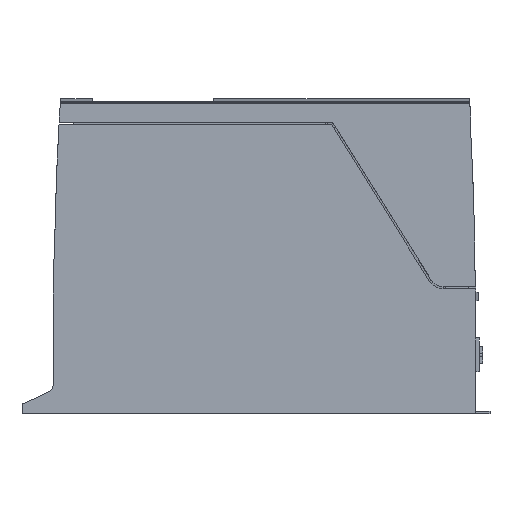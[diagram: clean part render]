
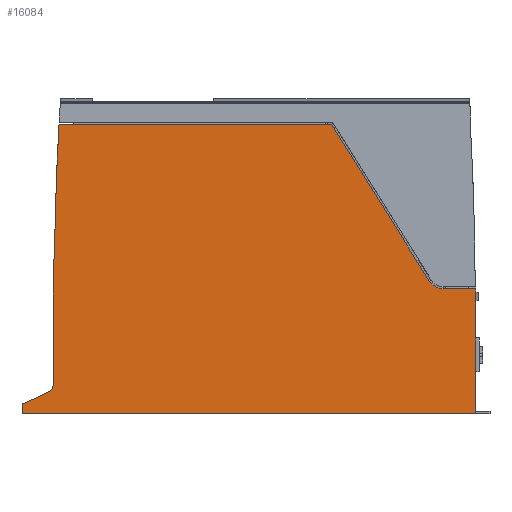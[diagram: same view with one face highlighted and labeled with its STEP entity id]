
A CAD part, left-side view. The second image highlights one B-rep face of the part: STEP entity #16084.
In plain terms, the highlighted planar face has unit normal (-1, 0, 0).
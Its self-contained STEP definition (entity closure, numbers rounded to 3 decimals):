
#14793=DIRECTION('',(0.,0.,1.));
#14794=VECTOR('',#14793,6.);
#14795=CARTESIAN_POINT('',(-51.,-287.5,-97.));
#14796=LINE('',#14795,#14794);
#14800=DIRECTION('',(0.,-1.,0.));
#14801=VECTOR('',#14800,322.);
#14802=CARTESIAN_POINT('',(-51.,34.5,-177.));
#14803=LINE('',#14802,#14801);
#14807=DIRECTION('',(0.,0.707,-0.707));
#14808=VECTOR('',#14807,1.414);
#14809=CARTESIAN_POINT('',(-51.,11.5,-67.));
#14810=LINE('',#14809,#14808);
#14814=CARTESIAN_POINT('',(-51.,-2188.322,-95.));
#14815=DIRECTION('',(1.,0.,0.));
#14816=DIRECTION('',(0.,1.,0.013));
#14817=AXIS2_PLACEMENT_3D('',#14814,#14815,#14816);
#14822=DIRECTION('',(0.,-1.,0.));
#14823=VECTOR('',#14822,193.343);
#14824=CARTESIAN_POINT('',(-51.,8.237,28.));
#14825=LINE('',#14824,#14823);
#14829=DIRECTION('',(0.,-0.53,-0.848));
#14830=VECTOR('',#14829,131.);
#14831=CARTESIAN_POINT('',(-51.,-185.106,28.));
#14832=LINE('',#14831,#14830);
#14836=CARTESIAN_POINT('',(-51.,-264.278,-77.));
#14837=DIRECTION('',(-1.,0.,0.));
#14838=DIRECTION('',(0.,0.848,-0.53));
#14839=AXIS2_PLACEMENT_3D('',#14836,#14837,#14838);
#14844=DIRECTION('',(0.,1.,0.));
#14845=VECTOR('',#14844,23.222);
#14846=CARTESIAN_POINT('',(-51.,-287.5,-88.5));
#14847=LINE('',#14846,#14845);
#15117=DIRECTION('',(0.,0.,1.));
#15118=VECTOR('',#15117,89.056);
#15119=CARTESIAN_POINT('',(-51.,12.5,-157.056));
#15120=LINE('',#15119,#15118);
#15131=CARTESIAN_POINT('',(-51.,17.5,-157.056));
#15132=DIRECTION('',(1.,0.,0.));
#15133=DIRECTION('',(0.,-1.,0.));
#15134=AXIS2_PLACEMENT_3D('',#15131,#15132,#15133);
#15139=DIRECTION('',(0.,0.906,-0.423));
#15140=VECTOR('',#15139,21.089);
#15141=CARTESIAN_POINT('',(-51.,15.387,-161.587));
#15142=LINE('',#15141,#15140);
#15153=DIRECTION('',(0.,0.,-1.));
#15154=VECTOR('',#15153,6.5);
#15155=CARTESIAN_POINT('',(-51.,34.5,-170.5));
#15156=LINE('',#15155,#15154);
#15386=DIRECTION('',(0.,0.,1.));
#15387=VECTOR('',#15386,80.);
#15388=CARTESIAN_POINT('',(-51.,-287.5,-177.));
#15389=LINE('',#15388,#15387);
#15421=DIRECTION('',(0.,0.,1.));
#15422=VECTOR('',#15421,2.5);
#15423=CARTESIAN_POINT('',(-51.,-287.5,-91.));
#15424=LINE('',#15423,#15422);
#15851=CARTESIAN_POINT('',(-51.,11.5,-67.));
#15852=CARTESIAN_POINT('',(-51.,12.5,-68.));
#15853=VERTEX_POINT('',#15851);
#15854=VERTEX_POINT('',#15852);
#15855=CARTESIAN_POINT('',(-51.,8.237,28.));
#15856=CARTESIAN_POINT('',(-51.,-185.106,28.));
#15857=VERTEX_POINT('',#15855);
#15858=VERTEX_POINT('',#15856);
#15859=CARTESIAN_POINT('',(-51.,-254.525,-83.094));
#15860=VERTEX_POINT('',#15859);
#15861=CARTESIAN_POINT('',(-51.,-264.278,-88.5));
#15862=VERTEX_POINT('',#15861);
#15863=CARTESIAN_POINT('',(-51.,-287.5,-88.5));
#15864=VERTEX_POINT('',#15863);
#15873=CARTESIAN_POINT('',(-51.,34.5,-177.));
#15874=CARTESIAN_POINT('',(-51.,-287.5,-177.));
#15875=VERTEX_POINT('',#15873);
#15876=VERTEX_POINT('',#15874);
#15879=CARTESIAN_POINT('',(-51.,34.5,-170.5));
#15880=VERTEX_POINT('',#15879);
#15881=CARTESIAN_POINT('',(-51.,12.5,-157.056));
#15882=VERTEX_POINT('',#15881);
#15883=CARTESIAN_POINT('',(-51.,15.387,-161.587));
#15884=VERTEX_POINT('',#15883);
#15933=CARTESIAN_POINT('',(-51.,-287.5,-97.));
#15934=CARTESIAN_POINT('',(-51.,-287.5,-91.));
#15935=VERTEX_POINT('',#15933);
#15936=VERTEX_POINT('',#15934);
#16049=CARTESIAN_POINT('',(-51.,12.5,-175.5));
#16050=DIRECTION('',(-1.,0.,0.));
#16051=DIRECTION('',(0.,0.,1.));
#16052=AXIS2_PLACEMENT_3D('',#16049,#16050,#16051);
#16053=PLANE('',#16052);
#16055=ORIENTED_EDGE('',*,*,#16054,.F.);
#16057=ORIENTED_EDGE('',*,*,#16056,.F.);
#16059=ORIENTED_EDGE('',*,*,#16058,.F.);
#16061=ORIENTED_EDGE('',*,*,#16060,.F.);
#16063=ORIENTED_EDGE('',*,*,#16062,.F.);
#16065=ORIENTED_EDGE('',*,*,#16064,.F.);
#16067=ORIENTED_EDGE('',*,*,#16066,.T.);
#16069=ORIENTED_EDGE('',*,*,#16068,.F.);
#16071=ORIENTED_EDGE('',*,*,#16070,.T.);
#16073=ORIENTED_EDGE('',*,*,#16072,.T.);
#16075=ORIENTED_EDGE('',*,*,#16074,.T.);
#16077=ORIENTED_EDGE('',*,*,#16076,.T.);
#16079=ORIENTED_EDGE('',*,*,#16078,.F.);
#16081=ORIENTED_EDGE('',*,*,#16080,.F.);
#16082=EDGE_LOOP('',(#16055,#16057,#16059,#16061,#16063,#16065,#16067,#16069,
#16071,#16073,#16075,#16077,#16079,#16081));
#16083=FACE_OUTER_BOUND('',#16082,.F.);
#16084=ADVANCED_FACE('',(#16083),#16053,.T.);
#14818=CIRCLE('',#14817,2200.);
#14840=CIRCLE('',#14839,11.5);
#15135=CIRCLE('',#15134,5.);
#16054=EDGE_CURVE('',#15935,#15936,#14796,.T.);
#16056=EDGE_CURVE('',#15876,#15935,#15389,.T.);
#16058=EDGE_CURVE('',#15875,#15876,#14803,.T.);
#16060=EDGE_CURVE('',#15880,#15875,#15156,.T.);
#16062=EDGE_CURVE('',#15884,#15880,#15142,.T.);
#16064=EDGE_CURVE('',#15882,#15884,#15135,.T.);
#16066=EDGE_CURVE('',#15882,#15854,#15120,.T.);
#16068=EDGE_CURVE('',#15853,#15854,#14810,.T.);
#16070=EDGE_CURVE('',#15853,#15857,#14818,.T.);
#16072=EDGE_CURVE('',#15857,#15858,#14825,.T.);
#16074=EDGE_CURVE('',#15858,#15860,#14832,.T.);
#16076=EDGE_CURVE('',#15860,#15862,#14840,.T.);
#16078=EDGE_CURVE('',#15864,#15862,#14847,.T.);
#16080=EDGE_CURVE('',#15936,#15864,#15424,.T.);
